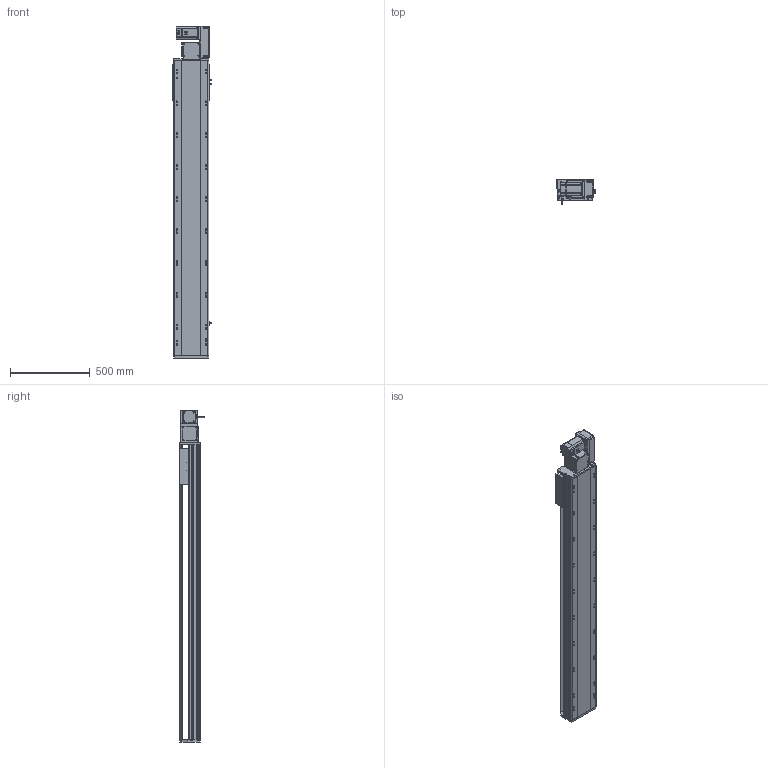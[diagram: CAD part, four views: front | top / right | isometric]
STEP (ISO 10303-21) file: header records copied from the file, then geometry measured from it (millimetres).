
FILE_DESCRIPTION (( 'STEP AP214' ), '1' );
FILE_NAME ('RTB22S-XX-1500-R-M75-C4.STEP', '2025-12-12T07:22:27', ( '' ), ( '' ), 'SwSTEP 2.0', 'SolidWorks 2018', '' );
FILE_SCHEMA (( 'AUTOMOTIVE_DESIGN' ));
Length unit declared in the file: millimetre
Products named in the file (14): RTB22S-GY-001耜裔^RTB22S-XX-XX-R-M75-C4; RTB22S-GY-005P^RTB22S-R-々湍釱蚾饜_RTB22S-XX-XX-R-M75-C4; RTB22S-GY-018P^RTB22S-R-々湍釱蚾饜_RTB22S-XX-XX-R-M75-C4; OMRON EE-SX672 传感器^RTB22S-XX-XX-R-M75-C4; RTB22S-R-々湍釱蚾饜^RTB22S-XX-XX-R-M75-C4; RTB22S-L-011菁釱^RTB22S-XX-XX-R-M75-C4; RTB22S-L-004賑釱^RTB22S-XX-XX-R-M75-C4; 750W萇儂^RTB22S-XX-XX-R-M75-C4; RTB22S-GY-008-M75--萇儂啣^RTB22S-R-々湍釱蚾饜_RTB22S-XX-XX-R-M75-C4; RTB22S-XX-1500-R-M75-C4; RTH22-GY-013外置感应片^RTB22S-XX-XX-R-M75-C4; RTB22S-GY-014--々湍釱^RTB22S-R-々湍釱蚾饜_RTB22S-XX-XX-R-M75-C4; RTB22S-GY-007奻裔^RTB22S-XX-XX-R-M75-C4; RTB22S-GY-017P^RTB22S-R-々湍釱蚾饜_RTB22S-XX-XX-R-M75-C4
Assembly tree (16 placements, depth 3):
  RTB22S-XX-1500-R-M75-C4
    RTB22S-L-011菁釱^RTB22S-XX-XX-R-M75-C4
    RTB22S-GY-001耜裔^RTB22S-XX-XX-R-M75-C4
    750W萇儂^RTB22S-XX-XX-R-M75-C4
    RTB22S-GY-007奻裔^RTB22S-XX-XX-R-M75-C4
    RTB22S-L-004賑釱^RTB22S-XX-XX-R-M75-C4
    RTH22-GY-013外置感应片^RTB22S-XX-XX-R-M75-C4
    OMRON EE-SX672 传感器^RTB22S-XX-XX-R-M75-C4  x3
    RTB22S-R-々湍釱蚾饜^RTB22S-XX-XX-R-M75-C4
      RTB22S-GY-014--々湍釱^RTB22S-R-々湍釱蚾饜_RTB22S-XX-XX-R-M75-C4
      RTB22S-GY-017P^RTB22S-R-々湍釱蚾饜_RTB22S-XX-XX-R-M75-C4  x2
      RTB22S-GY-005P^RTB22S-R-々湍釱蚾饜_RTB22S-XX-XX-R-M75-C4
      RTB22S-GY-008-M75--萇儂啣^RTB22S-R-々湍釱蚾饜_RTB22S-XX-XX-R-M75-C4
      RTB22S-GY-018P^RTB22S-R-々湍釱蚾饜_RTB22S-XX-XX-R-M75-C4
Bounding box: 238.5 x 162.7 x 2079 mm (x, y, z)
Volume: 27112845.9 mm3; surface area: 2799232.4 mm2
Topology: 15 solids, 15 shells, 2019 faces, 5486 edges, 3512 vertices
Faces by surface type: plane 919, cylinder 646, bspline 296, cone 146, sphere 8, torus 4
Entity records: 54084 total; most frequent: CARTESIAN_POINT 15468, ORIENTED_EDGE 7744, DIRECTION 7486, EDGE_CURVE 3872, AXIS2_PLACEMENT_3D 2654, VERTEX_POINT 2516, LINE 2178, VECTOR 2178
